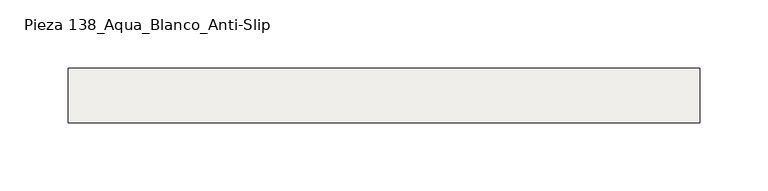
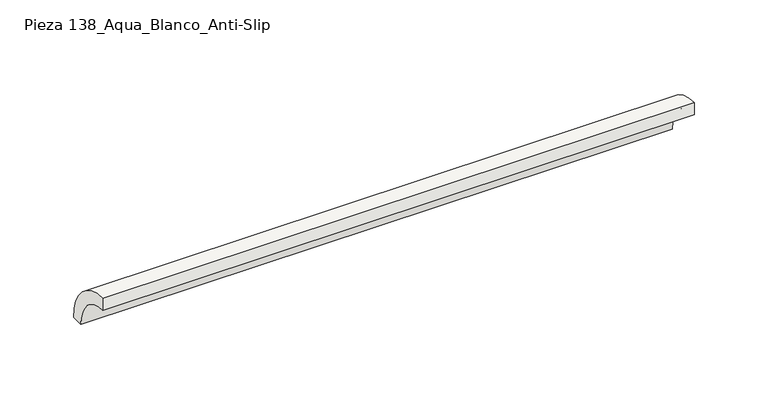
"""IFC4 building model written with IfcOpenShell, lengths in millimetres: slab geometry, ROSA GRES_138 : Pieza 138_Aqua_Blanco_Anti-Slip."""

from ifc_helpers import new_model, si_unit, point, frame, frame_2d, origin, origin_2d, place, context, project, spatial, polyline, circle_curve, trimmed, segment, composite_curve, outline, extrude, source, transform, mapped, element, save


def pieza_138_aqua_blanco_anti_slip_68b187ea(model_context):
    return source(origin(), model_context, "Body", "SweptSolid", [
        extrude(outline(composite_curve([segment(trimmed(circle_curve(origin_2d(), 40.0), [point((0.0, 40.0))], [point((40.0, 0.0))], False, "CARTESIAN"), True, "CONTINUOUS"), segment(polyline([(40.0, 0.0), (30.0265886, 0.0)]), True, "CONTINUOUS"), segment(trimmed(circle_curve(frame_2d((0.0044453, 0.0044453)), 30.0221435), [point((30.0265886, 0.0))], [point((0.0, 30.0265886))], True, "CARTESIAN"), True, "CONTINUOUS"), segment(polyline([(0.0, 30.0265886), (0.0, 40.0)]), True, "CONTINUOUS")], self_intersect=False)), frame((0.0, 0.0, 0.0), z_axis=(1.0, 0.0, 0.0), x_axis=(0.0, 1.0, 0.0)), (0.0, 0.0, 1.0), 464.1658786),
    ])


if __name__ == "__main__":
    model = new_model("IFC4")
    model_context = context("Model", 3, world=origin())
    ifc_project = project(units=[si_unit("LENGTHUNIT", "METRE", prefix="MILLI")], contexts=[model_context])
    site = spatial("IfcSite", under=ifc_project)
    building = spatial("IfcBuilding", under=site)
    placement = place(None, origin())
    pieza_138_aqua_blanco_anti_slip_shape = pieza_138_aqua_blanco_anti_slip_68b187ea(model_context)
    element("IfcSlab", 1, ObjectType="ROSA GRES_138 : Pieza 138_Aqua_Blanco_Anti-Slip", at=placement, inside=building, context=model_context, shape_type="MappedRepresentation", body=[
        mapped(pieza_138_aqua_blanco_anti_slip_shape, transform((0.0, 0.0, 0.0), x_axis=(1.0, 0.0, 0.0), y_axis=(0.0, 1.0, 0.0), z_axis=(0.0, 0.0, 1.0))),
    ])
    save(model, "model.ifc")
